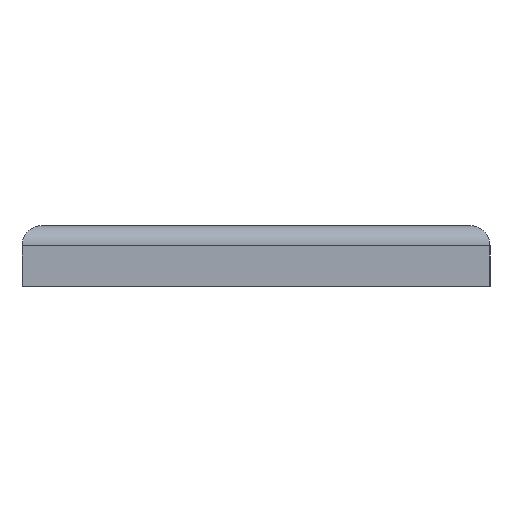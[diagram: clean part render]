
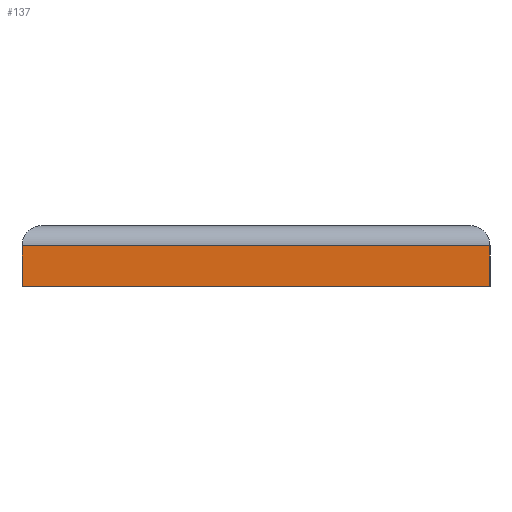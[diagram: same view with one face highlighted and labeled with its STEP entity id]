
A CAD part, left-side view. The second image highlights one B-rep face of the part: STEP entity #137.
In plain terms, the highlighted planar face has unit normal (-1, 0, 0).
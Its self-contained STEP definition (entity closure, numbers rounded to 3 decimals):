
#21 = EDGE_CURVE('',#22,#24,#26,.T.);
#22 = VERTEX_POINT('',#23);
#23 = CARTESIAN_POINT('',(1.,21.,0.));
#24 = VERTEX_POINT('',#25);
#25 = CARTESIAN_POINT('',(1.,21.,2.));
#26 = SURFACE_CURVE('',#27,(#31,#43),.PCURVE_S1.);
#27 = LINE('',#28,#29);
#28 = CARTESIAN_POINT('',(1.,21.,0.));
#29 = VECTOR('',#30,1.);
#30 = DIRECTION('',(0.,0.,1.));
#31 = PCURVE('',#32,#37);
#32 = PLANE('',#33);
#33 = AXIS2_PLACEMENT_3D('',#34,#35,#36);
#34 = CARTESIAN_POINT('',(1.,21.,0.));
#35 = DIRECTION('',(0.,1.,0.));
#36 = DIRECTION('',(1.,0.,0.));
#37 = DEFINITIONAL_REPRESENTATION('',(#38),#42);
#38 = LINE('',#39,#40);
#39 = CARTESIAN_POINT('',(0.,0.));
#40 = VECTOR('',#41,1.);
#41 = DIRECTION('',(0.,-1.));
#42 = ( GEOMETRIC_REPRESENTATION_CONTEXT(2) 
PARAMETRIC_REPRESENTATION_CONTEXT() REPRESENTATION_CONTEXT('2D SPACE',''
  ) );
#43 = PCURVE('',#44,#49);
#44 = PLANE('',#45);
#45 = AXIS2_PLACEMENT_3D('',#46,#47,#48);
#46 = CARTESIAN_POINT('',(1.,-2.,0.));
#47 = DIRECTION('',(-1.,0.,0.));
#48 = DIRECTION('',(0.,1.,0.));
#49 = DEFINITIONAL_REPRESENTATION('',(#50),#54);
#50 = LINE('',#51,#52);
#51 = CARTESIAN_POINT('',(23.,0.));
#52 = VECTOR('',#53,1.);
#53 = DIRECTION('',(0.,-1.));
#54 = ( GEOMETRIC_REPRESENTATION_CONTEXT(2) 
PARAMETRIC_REPRESENTATION_CONTEXT() REPRESENTATION_CONTEXT('2D SPACE',''
  ) );
#126 = PLANE('',#127);
#127 = AXIS2_PLACEMENT_3D('',#128,#129,#130);
#128 = CARTESIAN_POINT('',(27.,9.5,0.));
#129 = DIRECTION('',(-0.,-0.,-1.));
#130 = DIRECTION('',(-1.,0.,0.));
#137 = ADVANCED_FACE('',(#138),#44,.T.);
#138 = FACE_BOUND('',#139,.T.);
#139 = EDGE_LOOP('',(#140,#170,#196,#197));
#140 = ORIENTED_EDGE('',*,*,#141,.T.);
#141 = EDGE_CURVE('',#142,#144,#146,.T.);
#142 = VERTEX_POINT('',#143);
#143 = CARTESIAN_POINT('',(1.,-2.,0.));
#144 = VERTEX_POINT('',#145);
#145 = CARTESIAN_POINT('',(1.,-2.,2.));
#146 = SURFACE_CURVE('',#147,(#151,#158),.PCURVE_S1.);
#147 = LINE('',#148,#149);
#148 = CARTESIAN_POINT('',(1.,-2.,0.));
#149 = VECTOR('',#150,1.);
#150 = DIRECTION('',(0.,0.,1.));
#151 = PCURVE('',#44,#152);
#152 = DEFINITIONAL_REPRESENTATION('',(#153),#157);
#153 = LINE('',#154,#155);
#154 = CARTESIAN_POINT('',(0.,0.));
#155 = VECTOR('',#156,1.);
#156 = DIRECTION('',(0.,-1.));
#157 = ( GEOMETRIC_REPRESENTATION_CONTEXT(2) 
PARAMETRIC_REPRESENTATION_CONTEXT() REPRESENTATION_CONTEXT('2D SPACE',''
  ) );
#158 = PCURVE('',#159,#164);
#159 = PLANE('',#160);
#160 = AXIS2_PLACEMENT_3D('',#161,#162,#163);
#161 = CARTESIAN_POINT('',(53.,-2.,0.));
#162 = DIRECTION('',(0.,-1.,0.));
#163 = DIRECTION('',(-1.,0.,0.));
#164 = DEFINITIONAL_REPRESENTATION('',(#165),#169);
#165 = LINE('',#166,#167);
#166 = CARTESIAN_POINT('',(52.,0.));
#167 = VECTOR('',#168,1.);
#168 = DIRECTION('',(0.,-1.));
#169 = ( GEOMETRIC_REPRESENTATION_CONTEXT(2) 
PARAMETRIC_REPRESENTATION_CONTEXT() REPRESENTATION_CONTEXT('2D SPACE',''
  ) );
#170 = ORIENTED_EDGE('',*,*,#171,.T.);
#171 = EDGE_CURVE('',#144,#24,#172,.T.);
#172 = SURFACE_CURVE('',#173,(#177,#184),.PCURVE_S1.);
#173 = LINE('',#174,#175);
#174 = CARTESIAN_POINT('',(1.,-2.,2.));
#175 = VECTOR('',#176,1.);
#176 = DIRECTION('',(0.,1.,0.));
#177 = PCURVE('',#44,#178);
#178 = DEFINITIONAL_REPRESENTATION('',(#179),#183);
#179 = LINE('',#180,#181);
#180 = CARTESIAN_POINT('',(0.,-2.));
#181 = VECTOR('',#182,1.);
#182 = DIRECTION('',(1.,0.));
#183 = ( GEOMETRIC_REPRESENTATION_CONTEXT(2) 
PARAMETRIC_REPRESENTATION_CONTEXT() REPRESENTATION_CONTEXT('2D SPACE',''
  ) );
#184 = PCURVE('',#185,#190);
#185 = CYLINDRICAL_SURFACE('',#186,1.);
#186 = AXIS2_PLACEMENT_3D('',#187,#188,#189);
#187 = CARTESIAN_POINT('',(2.,-2.,2.));
#188 = DIRECTION('',(0.,1.,0.));
#189 = DIRECTION('',(-1.,0.,0.));
#190 = DEFINITIONAL_REPRESENTATION('',(#191),#195);
#191 = LINE('',#192,#193);
#192 = CARTESIAN_POINT('',(0.,0.));
#193 = VECTOR('',#194,1.);
#194 = DIRECTION('',(0.,1.));
#195 = ( GEOMETRIC_REPRESENTATION_CONTEXT(2) 
PARAMETRIC_REPRESENTATION_CONTEXT() REPRESENTATION_CONTEXT('2D SPACE',''
  ) );
#196 = ORIENTED_EDGE('',*,*,#21,.F.);
#197 = ORIENTED_EDGE('',*,*,#198,.F.);
#198 = EDGE_CURVE('',#142,#22,#199,.T.);
#199 = SURFACE_CURVE('',#200,(#204,#211),.PCURVE_S1.);
#200 = LINE('',#201,#202);
#201 = CARTESIAN_POINT('',(1.,-2.,0.));
#202 = VECTOR('',#203,1.);
#203 = DIRECTION('',(0.,1.,0.));
#204 = PCURVE('',#44,#205);
#205 = DEFINITIONAL_REPRESENTATION('',(#206),#210);
#206 = LINE('',#207,#208);
#207 = CARTESIAN_POINT('',(0.,0.));
#208 = VECTOR('',#209,1.);
#209 = DIRECTION('',(1.,0.));
#210 = ( GEOMETRIC_REPRESENTATION_CONTEXT(2) 
PARAMETRIC_REPRESENTATION_CONTEXT() REPRESENTATION_CONTEXT('2D SPACE',''
  ) );
#211 = PCURVE('',#126,#212);
#212 = DEFINITIONAL_REPRESENTATION('',(#213),#217);
#213 = LINE('',#214,#215);
#214 = CARTESIAN_POINT('',(26.,-11.5));
#215 = VECTOR('',#216,1.);
#216 = DIRECTION('',(0.,1.));
#217 = ( GEOMETRIC_REPRESENTATION_CONTEXT(2) 
PARAMETRIC_REPRESENTATION_CONTEXT() REPRESENTATION_CONTEXT('2D SPACE',''
  ) );
